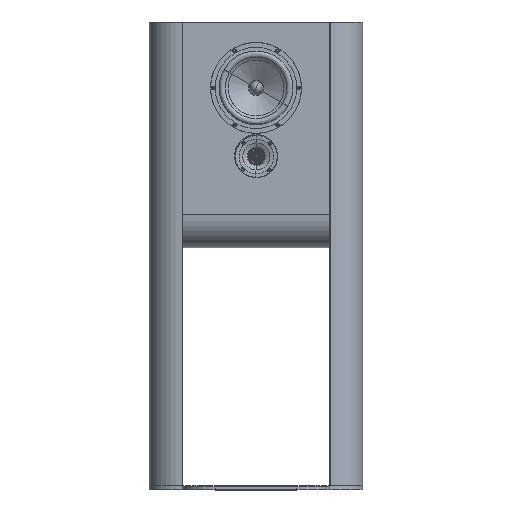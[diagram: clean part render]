
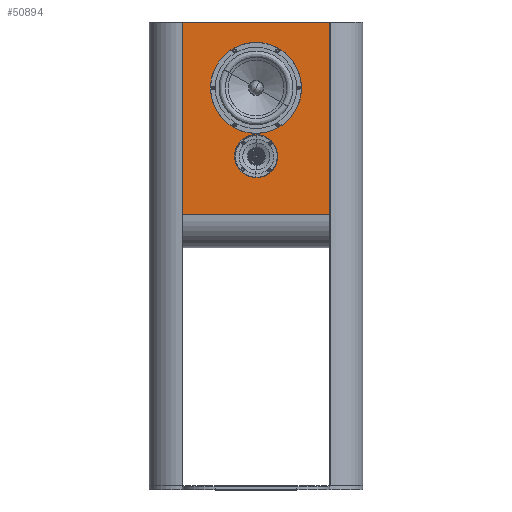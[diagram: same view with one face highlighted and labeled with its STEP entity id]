
A CAD part, top view. The second image highlights one B-rep face of the part: STEP entity #50894.
In plain terms, the highlighted planar face has unit normal (0, 0, 1).
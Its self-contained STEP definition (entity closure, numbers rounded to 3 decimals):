
#384 = EDGE_CURVE ( 'NONE', #14039, #6093, #20921, .T. ) ;
#3254 = VERTEX_POINT ( 'NONE', #57461 ) ;
#3323 = EDGE_CURVE ( 'NONE', #6093, #63749, #39041, .T. ) ;
#5410 = FACE_BOUND ( 'NONE', #48505, .T. ) ;
#5559 = DIRECTION ( 'NONE',  ( 0., 0., 1. ) ) ;
#6093 = VERTEX_POINT ( 'NONE', #42406 ) ;
#6465 = CIRCLE ( 'NONE', #56709, 110.75 ) ;
#8168 = CARTESIAN_POINT ( 'NONE',  ( 359.16, 1419.011, 480.434 ) ) ;
#8192 = DIRECTION ( 'NONE',  ( 0., 0., 1. ) ) ;
#8676 = ORIENTED_EDGE ( 'NONE', *, *, #60595, .F. ) ;
#10684 = CARTESIAN_POINT ( 'NONE',  ( 359.16, 949.011, 480.434 ) ) ;
#10692 = FACE_OUTER_BOUND ( 'NONE', #81008, .T. ) ;
#11003 = DIRECTION ( 'NONE',  ( 0., 0., 1. ) ) ;
#11246 = DIRECTION ( 'NONE',  ( 1., 0., 0. ) ) ;
#14039 = VERTEX_POINT ( 'NONE', #39953 ) ;
#16123 = EDGE_CURVE ( 'NONE', #77445, #3254, #64284, .T. ) ;
#16172 = VECTOR ( 'NONE', #74107, 1000. ) ;
#17248 = VECTOR ( 'NONE', #53774, 1000. ) ;
#18065 = DIRECTION ( 'NONE',  ( 0., 1., 0. ) ) ;
#18602 = ORIENTED_EDGE ( 'NONE', *, *, #384, .T. ) ;
#19322 = CARTESIAN_POINT ( 'NONE',  ( 68.41, 1258.311, 480.434 ) ) ;
#19660 = DIRECTION ( 'NONE',  ( 1., 0., 0. ) ) ;
#20921 = LINE ( 'NONE', #26623, #17248 ) ;
#21560 = CARTESIAN_POINT ( 'NONE',  ( -0.84, 949.011, 480.434 ) ) ;
#21847 = ORIENTED_EDGE ( 'NONE', *, *, #29960, .T. ) ;
#23310 = ORIENTED_EDGE ( 'NONE', *, *, #32547, .T. ) ;
#24684 = ORIENTED_EDGE ( 'NONE', *, *, #3323, .T. ) ;
#25984 = EDGE_CURVE ( 'NONE', #3254, #77445, #53931, .T. ) ;
#26623 = CARTESIAN_POINT ( 'NONE',  ( -0.84, 949.011, 480.434 ) ) ;
#29960 = EDGE_CURVE ( 'NONE', #63749, #70881, #44680, .T. ) ;
#32547 = EDGE_CURVE ( 'NONE', #70881, #14039, #54390, .T. ) ;
#34088 = VECTOR ( 'NONE', #67319, 1000. ) ;
#35684 = ORIENTED_EDGE ( 'NONE', *, *, #25984, .F. ) ;
#39041 = LINE ( 'NONE', #10684, #53633 ) ;
#39953 = CARTESIAN_POINT ( 'NONE',  ( -0.84, 949.011, 480.434 ) ) ;
#40506 = DIRECTION ( 'NONE',  ( 1., 0., 0. ) ) ;
#42406 = CARTESIAN_POINT ( 'NONE',  ( 359.16, 949.011, 480.434 ) ) ;
#43187 = AXIS2_PLACEMENT_3D ( 'NONE', #54102, #53668, #40506 ) ;
#43240 = ORIENTED_EDGE ( 'NONE', *, *, #45905, .F. ) ;
#44680 = LINE ( 'NONE', #65293, #34088 ) ;
#44741 = PLANE ( 'NONE',  #79557 ) ;
#45905 = EDGE_CURVE ( 'NONE', #76900, #75270, #6465, .T. ) ;
#46046 = FACE_BOUND ( 'NONE', #63414, .T. ) ;
#47961 = CARTESIAN_POINT ( 'NONE',  ( 179.16, 1092.011, 480.434 ) ) ;
#48505 = EDGE_LOOP ( 'NONE', ( #8676, #43240 ) ) ;
#50894 = ADVANCED_FACE ( 'NONE', ( #5410, #46046, #10692 ), #44741, .F. ) ;
#53633 = VECTOR ( 'NONE', #18065, 1000. ) ;
#53668 = DIRECTION ( 'NONE',  ( 0., 0., 1. ) ) ;
#53774 = DIRECTION ( 'NONE',  ( 1., 0., 0. ) ) ;
#53931 = CIRCLE ( 'NONE', #74939, 52.25 ) ;
#54102 = CARTESIAN_POINT ( 'NONE',  ( 179.16, 1258.311, 480.434 ) ) ;
#54390 = LINE ( 'NONE', #21560, #16172 ) ;
#56709 = AXIS2_PLACEMENT_3D ( 'NONE', #70942, #11003, #58658 ) ;
#56738 = ORIENTED_EDGE ( 'NONE', *, *, #16123, .F. ) ;
#57461 = CARTESIAN_POINT ( 'NONE',  ( 126.91, 1092.011, 480.434 ) ) ;
#58095 = CARTESIAN_POINT ( 'NONE',  ( 231.41, 1092.011, 480.434 ) ) ;
#58658 = DIRECTION ( 'NONE',  ( 1., 0., 0. ) ) ;
#58722 = AXIS2_PLACEMENT_3D ( 'NONE', #71193, #5559, #11246 ) ;
#60595 = EDGE_CURVE ( 'NONE', #75270, #76900, #72592, .T. ) ;
#60749 = CARTESIAN_POINT ( 'NONE',  ( -0.84, 1419.011, 480.434 ) ) ;
#63414 = EDGE_LOOP ( 'NONE', ( #56738, #35684 ) ) ;
#63749 = VERTEX_POINT ( 'NONE', #8168 ) ;
#64284 = CIRCLE ( 'NONE', #58722, 52.25 ) ;
#64928 = CARTESIAN_POINT ( 'NONE',  ( -0.84, 949.011, 480.434 ) ) ;
#65293 = CARTESIAN_POINT ( 'NONE',  ( -0.84, 1419.011, 480.434 ) ) ;
#67319 = DIRECTION ( 'NONE',  ( -1., 0., 0. ) ) ;
#70881 = VERTEX_POINT ( 'NONE', #60749 ) ;
#70942 = CARTESIAN_POINT ( 'NONE',  ( 179.16, 1258.311, 480.434 ) ) ;
#71193 = CARTESIAN_POINT ( 'NONE',  ( 179.16, 1092.011, 480.434 ) ) ;
#72592 = CIRCLE ( 'NONE', #43187, 110.75 ) ;
#72815 = CARTESIAN_POINT ( 'NONE',  ( 289.91, 1258.311, 480.434 ) ) ;
#74107 = DIRECTION ( 'NONE',  ( 0., -1., 0. ) ) ;
#74939 = AXIS2_PLACEMENT_3D ( 'NONE', #47961, #8192, #19660 ) ;
#75270 = VERTEX_POINT ( 'NONE', #72815 ) ;
#76900 = VERTEX_POINT ( 'NONE', #19322 ) ;
#77445 = VERTEX_POINT ( 'NONE', #58095 ) ;
#78968 = DIRECTION ( 'NONE',  ( 0., 0., -1. ) ) ;
#79557 = AXIS2_PLACEMENT_3D ( 'NONE', #64928, #78968, #85099 ) ;
#81008 = EDGE_LOOP ( 'NONE', ( #23310, #18602, #24684, #21847 ) ) ;
#85099 = DIRECTION ( 'NONE',  ( 0., -1., 0. ) ) ;
